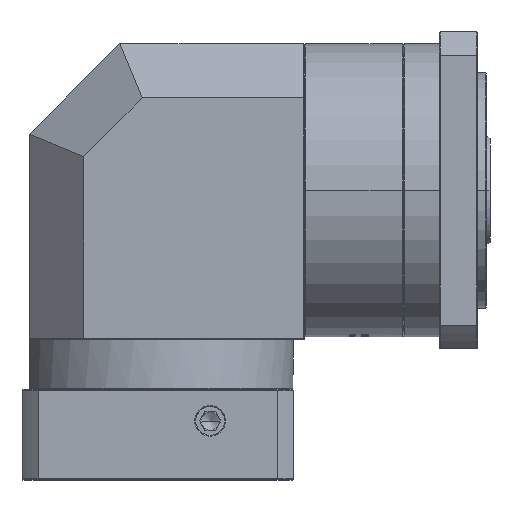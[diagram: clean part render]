
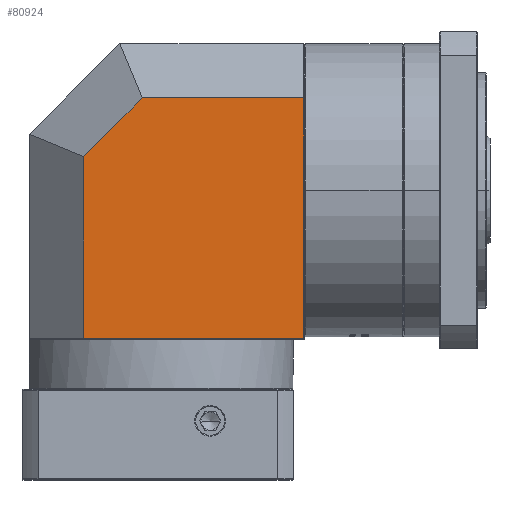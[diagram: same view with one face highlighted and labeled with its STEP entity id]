
A CAD part, top view. The second image highlights one B-rep face of the part: STEP entity #80924.
In plain terms, the highlighted planar face has unit normal (0, 0, 1).
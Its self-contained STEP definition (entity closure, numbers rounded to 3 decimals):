
#6911 = ORIENTED_EDGE ( 'NONE', *, *, #141335, .T. ) ;
#11856 = DIRECTION ( 'NONE',  ( 1., 0., 0. ) ) ;
#14539 = ORIENTED_EDGE ( 'NONE', *, *, #43474, .T. ) ;
#17619 = CARTESIAN_POINT ( 'NONE',  ( 10.933, -17.756, 323.25 ) ) ;
#19455 = LINE ( 'NONE', #120273, #147427 ) ;
#25043 = CARTESIAN_POINT ( 'NONE',  ( 10.933, -150.756, 323.25 ) ) ;
#28768 = VECTOR ( 'NONE', #87523, 1000. ) ;
#31695 = VECTOR ( 'NONE', #74224, 1000. ) ;
#32001 = AXIS2_PLACEMENT_3D ( 'NONE', #79926, #104148, #11856 ) ;
#36005 = CARTESIAN_POINT ( 'NONE',  ( -35.167, -69.506, 323.25 ) ) ;
#42773 = CARTESIAN_POINT ( 'NONE',  ( -35.167, -150.756, 323.25 ) ) ;
#43474 = EDGE_CURVE ( 'NONE', #125448, #87182, #19455, .T. ) ;
#53732 = LINE ( 'NONE', #25043, #94547 ) ;
#57607 = EDGE_LOOP ( 'NONE', ( #6911, #117395, #69325, #14539, #145880 ) ) ;
#69325 = ORIENTED_EDGE ( 'NONE', *, *, #117141, .F. ) ;
#71179 = DIRECTION ( 'NONE',  ( 1., 0., 0. ) ) ;
#74224 = DIRECTION ( 'NONE',  ( 1., 0., 0. ) ) ;
#79926 = CARTESIAN_POINT ( 'NONE',  ( 10.933, -69.506, 323.25 ) ) ;
#80364 = LINE ( 'NONE', #120849, #28768 ) ;
#80924 = ADVANCED_FACE ( 'NONE', ( #141056 ), #114632, .T. ) ;
#82910 = EDGE_CURVE ( 'NONE', #87182, #131845, #120101, .T. ) ;
#84784 = EDGE_CURVE ( 'NONE', #115540, #127262, #80364, .T. ) ;
#86282 = VECTOR ( 'NONE', #138393, 1000. ) ;
#87182 = VERTEX_POINT ( 'NONE', #137905 ) ;
#87523 = DIRECTION ( 'NONE',  ( 0., -1., 0. ) ) ;
#94547 = VECTOR ( 'NONE', #71179, 1000. ) ;
#104148 = DIRECTION ( 'NONE',  ( 0., 0., 1. ) ) ;
#114632 = PLANE ( 'NONE',  #32001 ) ;
#115540 = VERTEX_POINT ( 'NONE', #140680 ) ;
#117141 = EDGE_CURVE ( 'NONE', #125448, #115540, #127588, .T. ) ;
#117395 = ORIENTED_EDGE ( 'NONE', *, *, #84784, .F. ) ;
#118836 = DIRECTION ( 'NONE',  ( -0.707, -0.707, 0. ) ) ;
#120101 = LINE ( 'NONE', #36005, #86282 ) ;
#120273 = CARTESIAN_POINT ( 'NONE',  ( -2.741, -17.756, 323.25 ) ) ;
#120849 = CARTESIAN_POINT ( 'NONE',  ( 86.533, -69.506, 323.25 ) ) ;
#122375 = CARTESIAN_POINT ( 'NONE',  ( -2.741, -17.756, 323.25 ) ) ;
#125448 = VERTEX_POINT ( 'NONE', #122375 ) ;
#127262 = VERTEX_POINT ( 'NONE', #144265 ) ;
#127588 = LINE ( 'NONE', #17619, #31695 ) ;
#131845 = VERTEX_POINT ( 'NONE', #42773 ) ;
#137905 = CARTESIAN_POINT ( 'NONE',  ( -35.167, -50.182, 323.25 ) ) ;
#138393 = DIRECTION ( 'NONE',  ( 0., -1., 0. ) ) ;
#140680 = CARTESIAN_POINT ( 'NONE',  ( 86.533, -17.756, 323.25 ) ) ;
#141056 = FACE_OUTER_BOUND ( 'NONE', #57607, .T. ) ;
#141335 = EDGE_CURVE ( 'NONE', #131845, #127262, #53732, .T. ) ;
#144265 = CARTESIAN_POINT ( 'NONE',  ( 86.533, -150.756, 323.25 ) ) ;
#145880 = ORIENTED_EDGE ( 'NONE', *, *, #82910, .T. ) ;
#147427 = VECTOR ( 'NONE', #118836, 1000. ) ;
